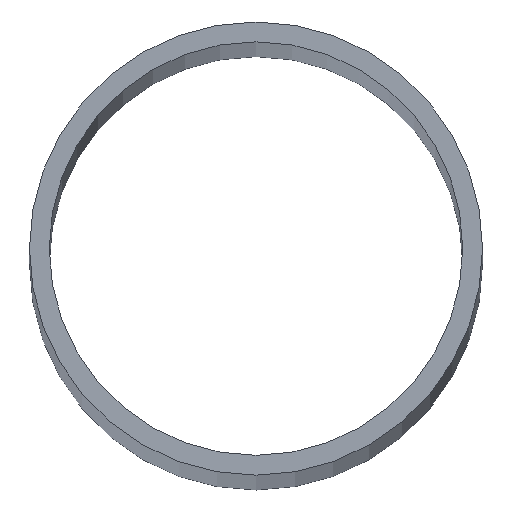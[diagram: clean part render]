
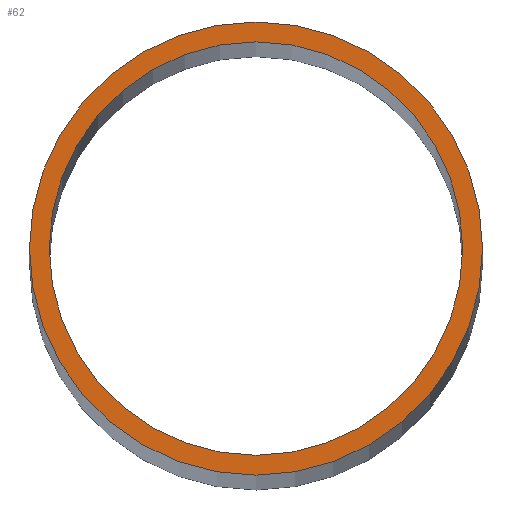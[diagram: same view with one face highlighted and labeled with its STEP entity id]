
A CAD part, top view. The second image highlights one B-rep face of the part: STEP entity #62.
In plain terms, the highlighted planar face has unit normal (0, 0, 1).
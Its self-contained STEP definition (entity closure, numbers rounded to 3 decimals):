
#15=PLANE('',#90);
#19=FACE_BOUND('',#31,.T.);
#23=FACE_OUTER_BOUND('',#30,.T.);
#30=EDGE_LOOP('',(#50));
#31=EDGE_LOOP('',(#51));
#32=CIRCLE('',#84,73.);
#34=CIRCLE('',#87,80.);
#36=VERTEX_POINT('',#111);
#38=VERTEX_POINT('',#116);
#40=EDGE_CURVE('',#36,#36,#32,.T.);
#42=EDGE_CURVE('',#38,#38,#34,.T.);
#50=ORIENTED_EDGE('',*,*,#42,.T.);
#51=ORIENTED_EDGE('',*,*,#40,.T.);
#62=ADVANCED_FACE('',(#23,#19),#15,.T.);
#84=AXIS2_PLACEMENT_3D('',#112,#95,#96);
#87=AXIS2_PLACEMENT_3D('',#117,#101,#102);
#90=AXIS2_PLACEMENT_3D('',#121,#107,#108);
#95=DIRECTION('center_axis',(0.,0.,-1.));
#96=DIRECTION('ref_axis',(-1.,0.,0.));
#101=DIRECTION('center_axis',(0.,0.,1.));
#102=DIRECTION('ref_axis',(-1.,0.,0.));
#107=DIRECTION('center_axis',(0.,0.,1.));
#108=DIRECTION('ref_axis',(1.,0.,0.));
#111=CARTESIAN_POINT('',(73.,0.,3000.));
#112=CARTESIAN_POINT('Origin',(0.,0.,3000.));
#116=CARTESIAN_POINT('',(80.,0.,3000.));
#117=CARTESIAN_POINT('Origin',(0.,0.,3000.));
#121=CARTESIAN_POINT('Origin',(0.,0.,3000.));
